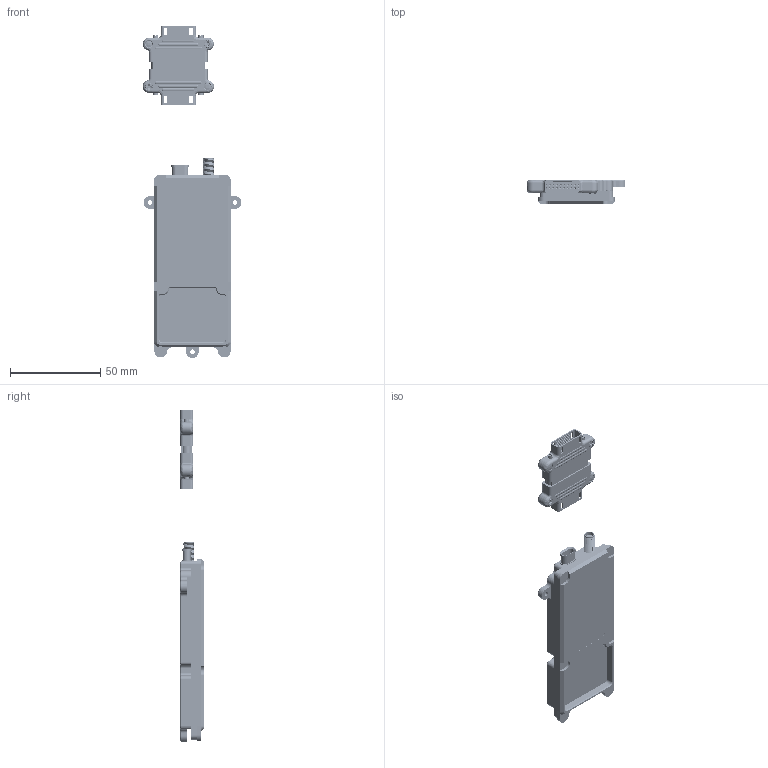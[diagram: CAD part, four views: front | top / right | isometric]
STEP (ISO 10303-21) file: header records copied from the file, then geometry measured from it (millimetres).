
FILE_DESCRIPTION (( 'STEP AP214' ), '1' );
FILE_NAME ('UV01.468339.102.332.STEP', '2017-02-14T08:38:43', ( '' ), ( '' ), 'SwSTEP 2.0', 'SolidWorks 2017', '' );
FILE_SCHEMA (( 'AUTOMOTIVE_DESIGN' ));
Length unit declared in the file: millimetre
Products named in the file (1): UV01.468339.102.332
Bounding box: 54.7 x 13.35 x 183.95 mm (x, y, z)
Surface area: 26197 mm2 (no closed solid volume)
Topology: 0 solids, 81 shells, 4665 faces, 11285 edges, 6805 vertices
Faces by surface type: cylinder 1490, plane 1213, bspline 1040, cone 898, torus 24
Entity records: 235184 total; most frequent: CARTESIAN_POINT 81140, ORIENTED_EDGE 22242, DIRECTION 19221, EDGE_CURVE 11129, AXIS2_PLACEMENT_3D 6859, VERTEX_POINT 6805, LINE 5503, VECTOR 5503
